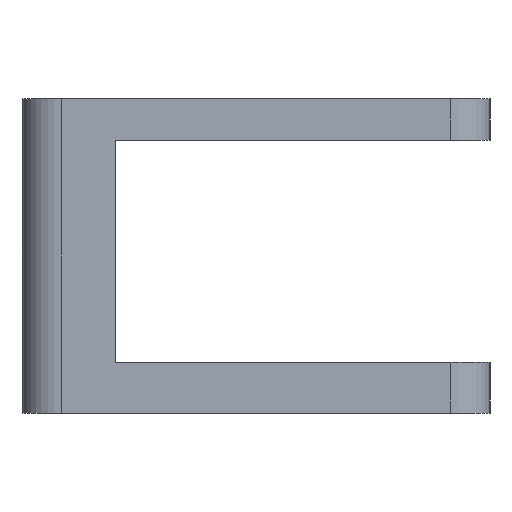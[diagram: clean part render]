
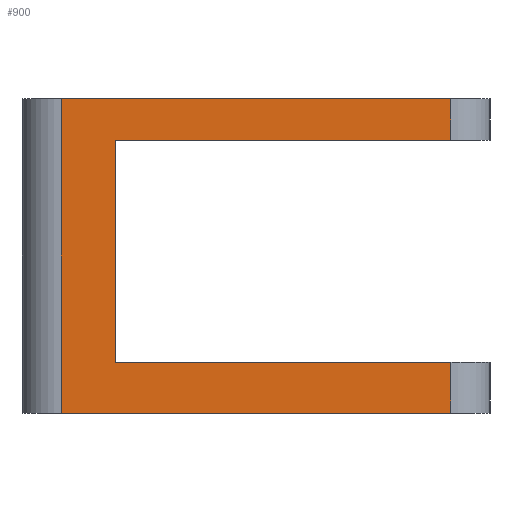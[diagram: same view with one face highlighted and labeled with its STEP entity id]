
A CAD part, left-side view. The second image highlights one B-rep face of the part: STEP entity #900.
In plain terms, the highlighted planar face has unit normal (-1, 0, 0).
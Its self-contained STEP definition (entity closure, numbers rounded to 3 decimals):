
#19=LINE('',#1452,#57);
#23=LINE('',#1468,#61);
#28=LINE('',#1482,#66);
#31=LINE('',#1488,#69);
#47=LINE('',#1534,#85);
#48=LINE('',#1537,#86);
#49=LINE('',#1538,#87);
#50=LINE('',#1539,#88);
#57=VECTOR('',#1206,5.3);
#61=VECTOR('',#1222,50.);
#66=VECTOR('',#1233,43.);
#69=VECTOR('',#1238,28.5);
#85=VECTOR('',#1286,6.5);
#86=VECTOR('',#1289,50.);
#87=VECTOR('',#1290,43.);
#88=VECTOR('',#1291,40.3);
#107=PLANE('',#1020);
#228=FACE_OUTER_BOUND('',#340,.T.);
#340=EDGE_LOOP('',(#776,#777,#778,#779,#780,#781,#782,#783));
#475=VERTEX_POINT('',#1448);
#476=VERTEX_POINT('',#1450);
#482=VERTEX_POINT('',#1466);
#487=VERTEX_POINT('',#1478);
#490=VERTEX_POINT('',#1485);
#503=VERTEX_POINT('',#1530);
#504=VERTEX_POINT('',#1532);
#505=VERTEX_POINT('',#1536);
#563=EDGE_CURVE('',#475,#476,#19,.T.);
#571=EDGE_CURVE('',#482,#476,#23,.T.);
#578=EDGE_CURVE('',#487,#475,#28,.T.);
#581=EDGE_CURVE('',#490,#487,#31,.T.);
#604=EDGE_CURVE('',#503,#504,#47,.T.);
#605=EDGE_CURVE('',#505,#503,#48,.T.);
#606=EDGE_CURVE('',#490,#504,#49,.T.);
#607=EDGE_CURVE('',#505,#482,#50,.T.);
#776=ORIENTED_EDGE('',*,*,#605,.T.);
#777=ORIENTED_EDGE('',*,*,#604,.T.);
#778=ORIENTED_EDGE('',*,*,#606,.F.);
#779=ORIENTED_EDGE('',*,*,#581,.T.);
#780=ORIENTED_EDGE('',*,*,#578,.T.);
#781=ORIENTED_EDGE('',*,*,#563,.T.);
#782=ORIENTED_EDGE('',*,*,#571,.F.);
#783=ORIENTED_EDGE('',*,*,#607,.F.);
#900=ADVANCED_FACE('',(#228),#107,.T.);
#1020=AXIS2_PLACEMENT_3D('',#1535,#1287,#1288);
#1206=DIRECTION('',(0.,0.,1.));
#1222=DIRECTION('',(0.,-1.,0.));
#1233=DIRECTION('',(0.,-1.,0.));
#1238=DIRECTION('',(0.,0.,1.));
#1286=DIRECTION('',(0.,0.,1.));
#1287=DIRECTION('center_axis',(-1.,0.,0.));
#1288=DIRECTION('ref_axis',(0.,-1.,0.));
#1289=DIRECTION('',(0.,-1.,0.));
#1290=DIRECTION('',(0.,-1.,0.));
#1291=DIRECTION('',(0.,0.,1.));
#1448=CARTESIAN_POINT('',(-100.721,-25.,35.));
#1450=CARTESIAN_POINT('',(-100.721,-25.,40.3));
#1452=CARTESIAN_POINT('',(-100.721,-25.,35.));
#1466=CARTESIAN_POINT('',(-100.721,25.,40.3));
#1468=CARTESIAN_POINT('',(-100.721,25.,40.3));
#1478=CARTESIAN_POINT('',(-100.721,18.,35.));
#1482=CARTESIAN_POINT('',(-100.721,25.,35.));
#1485=CARTESIAN_POINT('',(-100.721,18.,6.5));
#1488=CARTESIAN_POINT('',(-100.721,18.,6.5));
#1530=CARTESIAN_POINT('',(-100.721,-25.,0.));
#1532=CARTESIAN_POINT('',(-100.721,-25.,6.5));
#1534=CARTESIAN_POINT('',(-100.721,-25.,0.));
#1535=CARTESIAN_POINT('Origin',(-100.721,25.,0.));
#1536=CARTESIAN_POINT('',(-100.721,25.,0.));
#1537=CARTESIAN_POINT('',(-100.721,25.,0.));
#1538=CARTESIAN_POINT('',(-100.721,25.,6.5));
#1539=CARTESIAN_POINT('',(-100.721,25.,0.));
